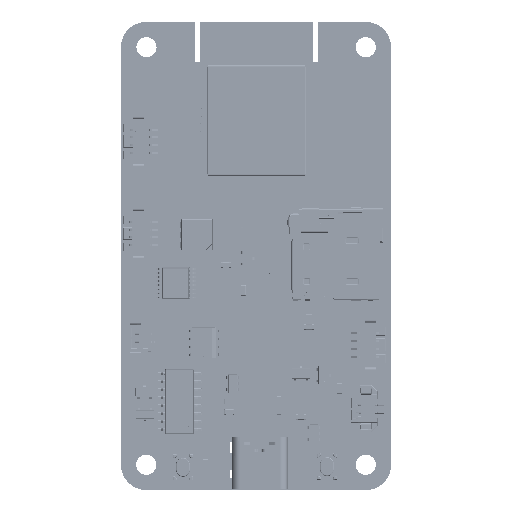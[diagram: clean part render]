
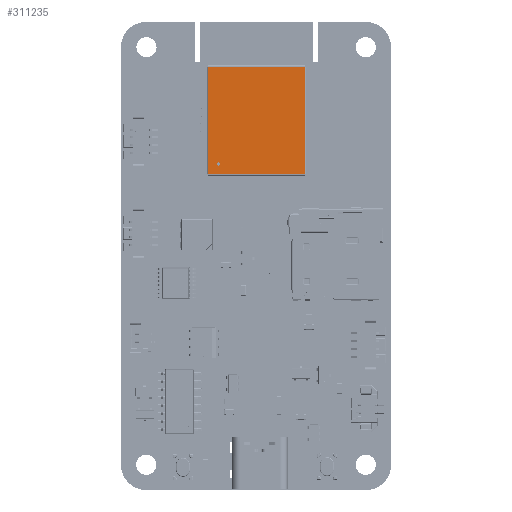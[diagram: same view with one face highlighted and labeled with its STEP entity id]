
A CAD part, top view. The second image highlights one B-rep face of the part: STEP entity #311235.
In plain terms, the highlighted planar face has unit normal (0, 0, 1).
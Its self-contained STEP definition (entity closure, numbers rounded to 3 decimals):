
#310766 = VERTEX_POINT('',#310767);
#310767 = CARTESIAN_POINT('',(-5.78,-6.91,2.3));
#310773 = EDGE_CURVE('',#310774,#310766,#310776,.T.);
#310774 = VERTEX_POINT('',#310775);
#310775 = CARTESIAN_POINT('',(-6.28,-6.91,2.3));
#310776 = CIRCLE('',#310777,0.25);
#310777 = AXIS2_PLACEMENT_3D('',#310778,#310779,#310780);
#310778 = CARTESIAN_POINT('',(-6.03,-6.91,2.3));
#310779 = DIRECTION('',(0.,0.,1.));
#310780 = DIRECTION('',(1.,0.,-0.));
#311235 = ADVANCED_FACE('',(#311236,#311270),#311280,.T.);
#311236 = FACE_BOUND('',#311237,.T.);
#311237 = EDGE_LOOP('',(#311238,#311248,#311256,#311264));
#311238 = ORIENTED_EDGE('',*,*,#311239,.T.);
#311239 = EDGE_CURVE('',#311240,#311242,#311244,.T.);
#311240 = VERTEX_POINT('',#311241);
#311241 = CARTESIAN_POINT('',(7.65,8.55,2.3));
#311242 = VERTEX_POINT('',#311243);
#311243 = CARTESIAN_POINT('',(-7.65,8.55,2.3));
#311244 = LINE('',#311245,#311246);
#311245 = CARTESIAN_POINT('',(-7.9,8.55,2.3));
#311246 = VECTOR('',#311247,1.);
#311247 = DIRECTION('',(-1.,0.,0.));
#311248 = ORIENTED_EDGE('',*,*,#311249,.T.);
#311249 = EDGE_CURVE('',#311242,#311250,#311252,.T.);
#311250 = VERTEX_POINT('',#311251);
#311251 = CARTESIAN_POINT('',(-7.65,-8.55,2.3));
#311252 = LINE('',#311253,#311254);
#311253 = CARTESIAN_POINT('',(-7.65,-8.8,2.3));
#311254 = VECTOR('',#311255,1.);
#311255 = DIRECTION('',(0.,-1.,0.));
#311256 = ORIENTED_EDGE('',*,*,#311257,.T.);
#311257 = EDGE_CURVE('',#311250,#311258,#311260,.T.);
#311258 = VERTEX_POINT('',#311259);
#311259 = CARTESIAN_POINT('',(7.65,-8.55,2.3));
#311260 = LINE('',#311261,#311262);
#311261 = CARTESIAN_POINT('',(7.9,-8.55,2.3));
#311262 = VECTOR('',#311263,1.);
#311263 = DIRECTION('',(1.,0.,0.));
#311264 = ORIENTED_EDGE('',*,*,#311265,.T.);
#311265 = EDGE_CURVE('',#311258,#311240,#311266,.T.);
#311266 = LINE('',#311267,#311268);
#311267 = CARTESIAN_POINT('',(7.65,8.8,2.3));
#311268 = VECTOR('',#311269,1.);
#311269 = DIRECTION('',(0.,1.,0.));
#311270 = FACE_BOUND('',#311271,.T.);
#311271 = EDGE_LOOP('',(#311272,#311279));
#311272 = ORIENTED_EDGE('',*,*,#311273,.F.);
#311273 = EDGE_CURVE('',#310766,#310774,#311274,.T.);
#311274 = CIRCLE('',#311275,0.25);
#311275 = AXIS2_PLACEMENT_3D('',#311276,#311277,#311278);
#311276 = CARTESIAN_POINT('',(-6.03,-6.91,2.3));
#311277 = DIRECTION('',(0.,0.,1.));
#311278 = DIRECTION('',(1.,0.,-0.));
#311279 = ORIENTED_EDGE('',*,*,#310773,.F.);
#311280 = PLANE('',#311281);
#311281 = AXIS2_PLACEMENT_3D('',#311282,#311283,#311284);
#311282 = CARTESIAN_POINT('',(0.,0.,2.3));
#311283 = DIRECTION('',(0.,0.,1.));
#311284 = DIRECTION('',(1.,0.,-0.));
